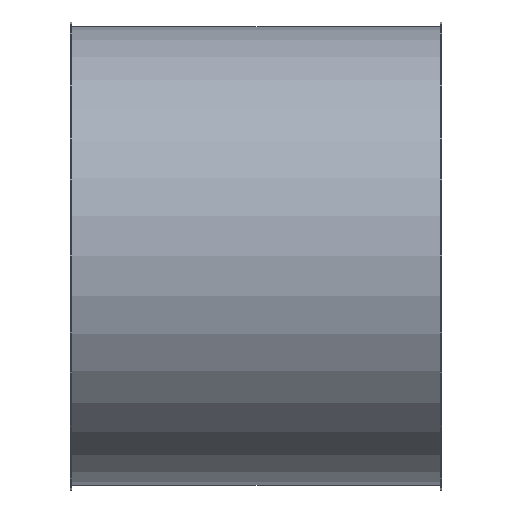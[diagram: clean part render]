
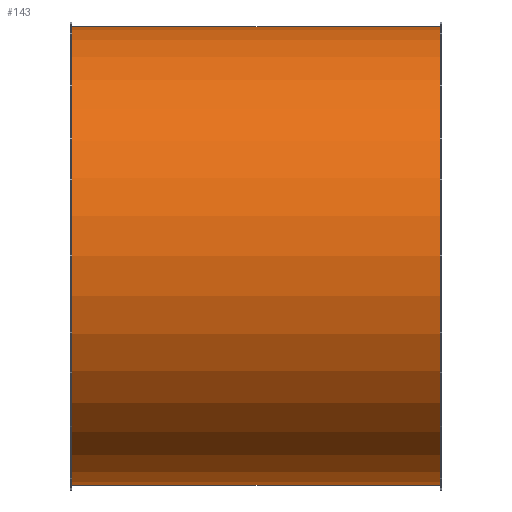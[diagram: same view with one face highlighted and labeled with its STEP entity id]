
A CAD part, front view. The second image highlights one B-rep face of the part: STEP entity #143.
In plain terms, the highlighted cylindrical face has radius 301 mm (diameter 602 mm), a full revolution.
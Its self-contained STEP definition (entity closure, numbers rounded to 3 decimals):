
#112=CARTESIAN_POINT('',(454.119,2.817,0.0));
#113=VERTEX_POINT('',#112);
#114=CARTESIAN_POINT('',(454.119,303.817,0.0));
#115=DIRECTION('',(-1.0,0.0,0.0));
#116=DIRECTION('',(0.0,-1.0,0.0));
#117=AXIS2_PLACEMENT_3D('',#114,#115,#116);
#118=CIRCLE('',#117,301.);
#119=EDGE_CURVE('',#113,#113,#118,.T.);
#124=CARTESIAN_POINT('',(212.119,303.817,0.0));
#125=DIRECTION('',(-1.0,0.,0.0));
#126=DIRECTION('',(0.0,-1.0,0.0));
#127=AXIS2_PLACEMENT_3D('',#124,#125,#126);
#128=CYLINDRICAL_SURFACE('',#127,301.);
#129=CARTESIAN_POINT('',(-29.881,2.817,0.0));
#130=VERTEX_POINT('',#129);
#131=CARTESIAN_POINT('',(-29.881,303.817,0.0));
#132=DIRECTION('',(-1.0,0.0,0.0));
#133=DIRECTION('',(0.0,-1.0,0.0));
#134=AXIS2_PLACEMENT_3D('',#131,#132,#133);
#135=CIRCLE('',#134,301.0);
#136=EDGE_CURVE('',#130,#130,#135,.T.);
#137=ORIENTED_EDGE('',*,*,#136,.F.);
#138=EDGE_LOOP('',(#137));
#139=FACE_OUTER_BOUND('',#138,.T.);
#140=ORIENTED_EDGE('',*,*,#119,.T.);
#141=EDGE_LOOP('',(#140));
#142=FACE_BOUND('',#141,.T.);
#143=ADVANCED_FACE('',(#139,#142),#128,.T.);
